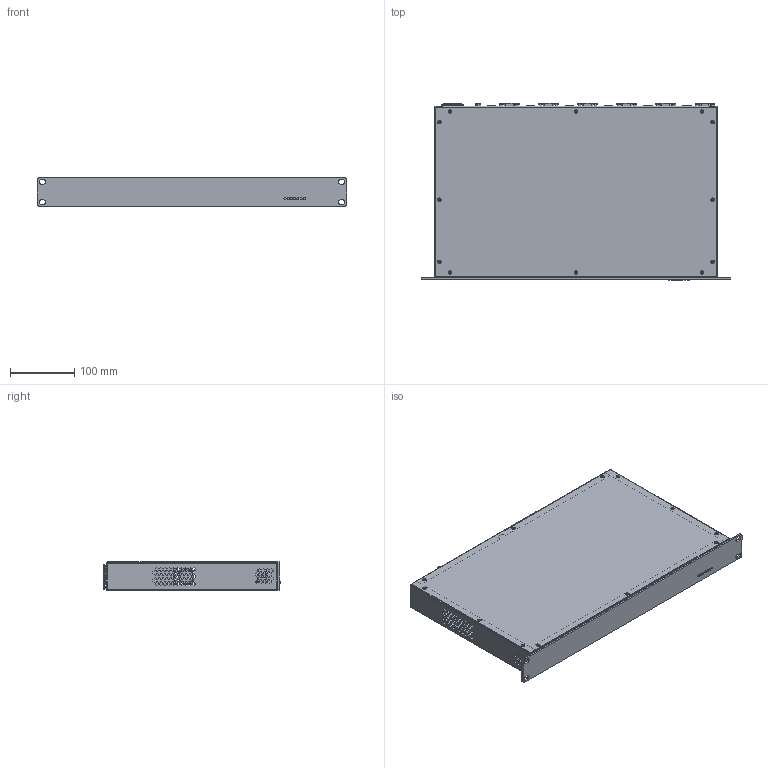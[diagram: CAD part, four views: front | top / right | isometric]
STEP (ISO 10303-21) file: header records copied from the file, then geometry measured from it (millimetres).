
FILE_DESCRIPTION (( 'STEP AP214' ), '1' );
FILE_NAME ('1312300001_DSSIU-6-1U-V.STEP', '2020-08-20T11:41:26', ( '' ), ( '' ), 'SwSTEP 2.0', 'SolidWorks 2019', '' );
FILE_SCHEMA (( 'AUTOMOTIVE_DESIGN' ));
Length unit declared in the file: millimetre
Products named in the file (1): 1312300001_DSSIU-6-1U-V
Bounding box: 482.6 x 276.58 x 44 mm (x, y, z)
Surface area: 754001.9 mm2 (no closed solid volume)
Topology: 0 solids, 159 shells, 1825 faces, 8882 edges, 6974 vertices
Faces by surface type: plane 941, cylinder 500, cone 298, torus 66, bspline 20
Entity records: 119594 total; most frequent: CARTESIAN_POINT 26802, DIRECTION 15265, ORIENTED_EDGE 12863, EDGE_CURVE 8846, VERTEX_POINT 6974, AXIS2_PLACEMENT_3D 5731, CIRCLE 3925, VECTOR 3803
